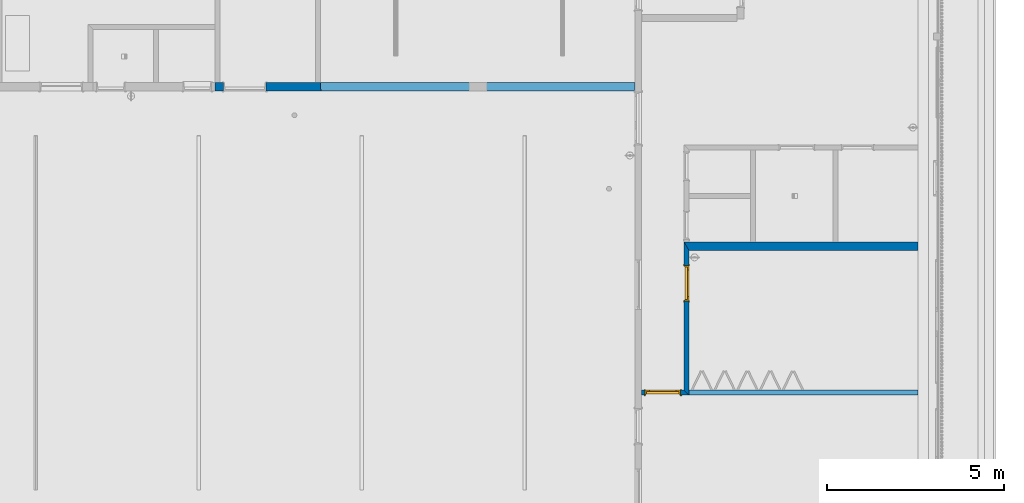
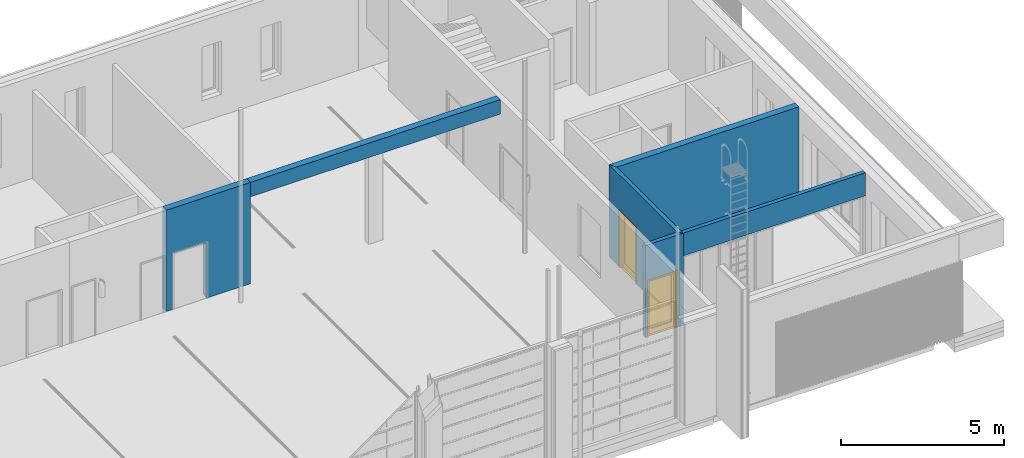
# One storey, part 11 of 112: 6 walls, 2 doors, 4 openings.
"""IFC2X3 building model written with IfcOpenShell, lengths in millimetres."""

from ifc_helpers import new_model, entity, si_unit, converted_unit, derived_unit, money_unit, direction, frame, origin_with_axes, origin_2d_with_axis, place, context, subcontext, project, spatial, polyline, rectangle, outline, extrude, open_shell, faceted_brep, surface_model, source, transform, mapped, material, layer, layer_set, layer_usage, type_object, element, fill, save


model = new_model("IFC2X3")

# Units and contexts
model_context = context("Model", 3, precision=0.01, world=origin_with_axes(), true_north=direction((0.0, 1.0)))
body_context = subcontext(model_context, "Body", "Model", "MODEL_VIEW")
ifc_project = project(units=[si_unit("LENGTHUNIT", "METRE", prefix="MILLI"), si_unit("AREAUNIT", "SQUARE_METRE"), si_unit("VOLUMEUNIT", "CUBIC_METRE"), converted_unit("PLANEANGLEUNIT", "DEGREE", entity("IfcPlaneAngleMeasure", 0.0174532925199), si_unit("PLANEANGLEUNIT", "RADIAN"), dimensions=[0, 0, 0, 0, 0, 0, 0]), si_unit("SOLIDANGLEUNIT", "STERADIAN"), money_unit("EUR"), converted_unit("TIMEUNIT", "Year", entity("IfcTimeMeasure", 31556926.0), si_unit("TIMEUNIT", "SECOND"), dimensions=[0, 0, 1, 0, 0, 0, 0]), si_unit("MASSUNIT", "GRAM", prefix="KILO"), si_unit("THERMODYNAMICTEMPERATUREUNIT", "DEGREE_CELSIUS"), si_unit("LUMINOUSINTENSITYUNIT", "LUMEN"), si_unit("ENERGYUNIT", "JOULE", prefix="MEGA"), derived_unit("THERMALCONDUCTANCEUNIT", [(si_unit("POWERUNIT", "WATT"), 1), (si_unit("LENGTHUNIT", "METRE"), -1), (si_unit("THERMODYNAMICTEMPERATUREUNIT", "KELVIN"), -1)]), derived_unit("SPECIFICHEATCAPACITYUNIT", [(si_unit("ENERGYUNIT", "JOULE"), 1), (si_unit("MASSUNIT", "GRAM", prefix="KILO"), -1), (si_unit("THERMODYNAMICTEMPERATUREUNIT", "KELVIN"), -1)]), derived_unit("MASSDENSITYUNIT", [(si_unit("MASSUNIT", "GRAM", prefix="KILO"), 1), (si_unit("VOLUMEUNIT", "CUBIC_METRE"), -1)])], contexts=[model_context])

# Site, building, storey
site_placement = place(None, origin_with_axes())
site = spatial("IfcSite", under=ifc_project, at=site_placement, Name="Politse- ja Piirivalveameti ning Päästeameti ühishoone", CompositionType="ELEMENT")
building_placement = place(site_placement, origin_with_axes())
building = spatial("IfcBuilding", under=site, at=building_placement, Name="Politse- ja Piirivalveameti ning Päästeameti ühishoone", CompositionType="ELEMENT")
storey_placement = place(building_placement, origin_with_axes())
storey = spatial("IfcBuildingStorey", under=building, at=storey_placement, Name="Esimene korrus", CompositionType="ELEMENT", Elevation=0.0)

# Walls
ifc_material = material(Name="KON-05_Betoon Plokk - Konstuktsioon")
ifc_layer_1 = layer(ifc_material, 240.0, ventilated="UNKNOWN")
ifc_layer_set_1 = layer_set([ifc_layer_1], Name="SS-04_Sisesein 240")
ifc_layer_usage_1 = layer_usage(ifc_layer_set_1, "AXIS2", "NEGATIVE", 240.0)
wall_type_1 = type_object("IfcWallType", Name="SS-04_Sisesein 240 240", PredefinedType="NOTDEFINED")
wall_1_placement = place(storey_placement, frame((67960.5638285, 8500.01298611, 0.0), z_axis=(0.0, 0.0, 1.0), x_axis=(-1.0, 0.0, 0.0)))
element("IfcWallStandardCase", 1, at=wall_1_placement, inside=storey, type_object=wall_type_1, material=ifc_layer_usage_1, Name="SS-04", context=body_context, shape_type="SweptSolid", body=[
    extrude(outline(polyline([(0.0, 0.0), (6600.01191667, 0.0), (6460.01191667, 240.0), (0.0, 240.0), (0.0, 0.0)])), origin_with_axes(), (0.0, 0.0, 1.0), 3460.0),
])
ifc_layer_usage_2 = layer_usage(ifc_layer_set_1, "AXIS2", "NEGATIVE", 0.0)
wall_2_placement = place(storey_placement, frame((51100.5378563, 13000.0198611, 3257.96481008), z_axis=(0.0, 0.0, 1.0), x_axis=(1.0, 0.0, 0.0)))
element("IfcWallStandardCase", 2, at=wall_2_placement, inside=storey, type_object=wall_type_1, material=ifc_layer_usage_2, Name="SS-04", context=body_context, shape_type="SweptSolid", body=[
    extrude(outline(polyline([(0.0, -240.0), (8870.01405556, -240.0), (8870.01405556, 0.0), (0.0, 0.0), (0.0, -240.0)])), origin_with_axes(), (0.0, 0.0, 1.0), 542.035189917),
])

# Wall, opening
ifc_layer_usage_3 = layer_usage(ifc_layer_set_1, "AXIS2", "NEGATIVE", 0.0)
wall_3_placement = place(storey_placement, frame((48120.5326618, 13000.0198611, 0.0), z_axis=(0.0, 0.0, 1.0), x_axis=(1.0, 0.0, 0.0)))
wall_3 = element("IfcWallStandardCase", 3, at=wall_3_placement, inside=storey, type_object=wall_type_1, material=ifc_layer_usage_3, Name="SS-04", context=body_context, shape_type="SweptSolid", body=[
    extrude(outline(polyline([(0.0, -240.0), (2985.00519444, -240.0), (2980.00519444, 0.0), (0.0, 0.0), (0.0, -240.0)])), origin_with_axes(), (0.0, 0.0, 1.0), 3800.0),
])
opening_1_placement = place(wall_3_placement, frame((840.0, 0.0, 0.0), z_axis=(0.0, 0.0, 1.0), x_axis=(1.0, 0.0, 0.0)))
element("IfcOpeningElement", 4, at=opening_1_placement, cuts=wall_3, Name="TU-01-2", context=body_context, shape_type="SweptSolid", body=[
    extrude(rectangle(XDim=1200.0, YDim=2100.0, at=origin_2d_with_axis()), frame((0.0, -120.0, 1050.0), z_axis=(0.0, 1.0, 0.0), x_axis=(1.0, 0.0, 0.0)), (0.0, 0.0, 1.0), 360.0),
    extrude(rectangle(XDim=1200.0, YDim=2100.0, at=origin_2d_with_axis()), frame((0.0, -120.0, 1050.0), z_axis=(0.0, -1.0, 0.0), x_axis=(1.0, 0.0, 0.0)), (0.0, 0.0, 1.0), 360.0),
    extrude(rectangle(XDim=1274.0, YDim=2137.0, at=origin_2d_with_axis()), frame((0.0, -240.0, 1068.5), z_axis=(0.0, -1.0, 0.0), x_axis=(1.0, 0.0, 0.0)), (0.0, 0.0, 1.0), 360.0),
    extrude(rectangle(XDim=1274.0, YDim=2137.0, at=origin_2d_with_axis()), frame((0.0, 0.0, 1068.5), z_axis=(0.0, 1.0, 0.0), x_axis=(1.0, 0.0, 0.0)), (0.0, 0.0, 1.0), 360.0),
])

# Wall, opening, door
ifc_layer_2 = layer(ifc_material, 140.0, ventilated="UNKNOWN")
ifc_layer_set_2 = layer_set([ifc_layer_2], Name="SS-02_Sisesein 140")
ifc_layer_usage_4 = layer_usage(ifc_layer_set_2, "AXIS2", "NEGATIVE", 140.0)
wall_type_2 = type_object("IfcWallType", Name="SS-02_Sisesein 140 140", PredefinedType="NOTDEFINED")
wall_4_placement = place(storey_placement, frame((61500.5519118, 4250.00649306, 0.0), z_axis=(0.0, 0.0, 1.0), x_axis=(0.0, 1.0, 0.0)))
wall_4 = element("IfcWallStandardCase", 5, at=wall_4_placement, inside=storey, type_object=wall_type_2, material=ifc_layer_usage_4, Name="SS-02", context=body_context, shape_type="SweptSolid", body=[
    extrude(outline(polyline([(-70.0, 0.0), (4010.00649306, 0.0), (4250.00649306, 140.0), (70.0, 140.0), (-70.0, 0.0)])), origin_with_axes(), (0.0, 0.0, 1.0), 3460.0),
])
opening_2_placement = place(wall_4_placement, frame((3087.44735064, 0.0, 0.0), z_axis=(0.0, 0.0, 1.0), x_axis=(1.0, 0.0, 0.0)))
opening_2 = element("IfcOpeningElement", 6, at=opening_2_placement, cuts=wall_4, Name="TU-01-7", context=body_context, shape_type="SweptSolid", body=[
    extrude(rectangle(XDim=1000.0, YDim=2100.0, at=origin_2d_with_axis()), frame((0.0, 140.0, 1050.0), z_axis=(0.0, 1.0, 0.0), x_axis=(1.0, 0.0, 0.0)), (0.0, 0.0, -1.0), 420.0),
    extrude(rectangle(XDim=1074.0, YDim=2137.0, at=origin_2d_with_axis()), frame((0.0, 140.0, 1068.5), z_axis=(0.0, 1.0, 0.0), x_axis=(1.0, 0.0, 0.0)), (0.0, 0.0, 1.0), 140.0),
    extrude(rectangle(XDim=1074.0, YDim=2137.0, at=origin_2d_with_axis()), frame((0.0, 0.0, 1068.5), z_axis=(0.0, -1.0, 0.0), x_axis=(1.0, 0.0, 0.0)), (0.0, 0.0, 1.0), 140.0),
])
door_style_1 = type_object("IfcDoorStyle", Name="Door 23", ConstructionType="NOTDEFINED", OperationType="SINGLE_SWING_LEFT", ParameterTakesPrecedence=False, Sizeable=False)
shared_shape = source(origin_with_axes(), body_context, "Body", "SurfaceModel", [
    faceted_brep([(-472.0, -40.0, 0.0), (-460.0, -40.0, 0.0), (-460.0, -40.0, 12.0), (-472.0, -40.0, 12.0), (472.0, -40.0, 0.0), (460.0, -40.0, 0.0), (460.0, -115.0, 0.0), (-460.0, -115.0, 0.0), (-460.0, -115.0, 12.0), (460.0, -115.0, 12.0), (460.0, -40.0, 12.0), (472.0, -40.0, 12.0)], [[[0, 1, 2, 3]], [[0, 4, 5, 6, 7, 1]], [[1, 7, 8, 2]], [[3, 2, 8, 9, 10, 11]], [[4, 0, 3, 11]], [[5, 4, 11, 10]], [[6, 5, 10, 9]], [[7, 6, 9, 8]]]),
    faceted_brep([(500.0, -115.0, 0.0), (500.0, -140.0, 0.0), (475.0, -140.0, 0.0), (475.0, -115.0, 0.0), (500.0, -115.0, 2100.0), (500.0, -140.0, 2100.0), (475.0, -140.0, 2075.0), (475.0, -115.0, 2075.0)], [[[0, 1, 2, 3]], [[4, 5, 1, 0]], [[1, 5, 6, 2]], [[3, 2, 6, 7]], [[0, 3, 7, 4]], [[7, 6, 5, 4]]]),
    faceted_brep([(-500.0, -115.0, 2100.0), (-500.0, -140.0, 2100.0), (-475.0, -140.0, 2075.0), (-475.0, -115.0, 2075.0), (-500.0, -115.0, 0.0), (-500.0, -140.0, 0.0), (-475.0, -140.0, 0.0), (-475.0, -115.0, 0.0)], [[[0, 1, 2, 3]], [[4, 5, 1, 0]], [[1, 5, 6, 2]], [[3, 2, 6, 7]], [[0, 3, 7, 4]], [[7, 6, 5, 4]]]),
    faceted_brep([(475.0, -115.0, 2075.0), (475.0, -140.0, 2075.0), (-475.0, -140.0, 2075.0), (-475.0, -115.0, 2075.0), (500.0, -115.0, 2100.0), (500.0, -140.0, 2100.0), (-500.0, -140.0, 2100.0), (-500.0, -115.0, 2100.0)], [[[0, 1, 2, 3]], [[4, 5, 1, 0]], [[1, 5, 6, 2]], [[3, 2, 6, 7]], [[0, 3, 7, 4]], [[7, 6, 5, 4]]]),
    faceted_brep([(537.0, -159.0, 0.0), (487.0, -159.0, 0.0), (487.0, -140.0, 0.0), (537.0, -140.0, 0.0), (537.0, -159.0, 2137.0), (487.0, -159.0, 2087.0), (487.0, -140.0, 2087.0), (537.0, -140.0, 2137.0)], [[[0, 1, 2, 3]], [[0, 4, 5, 1]], [[1, 5, 6, 2]], [[3, 2, 6, 7]], [[4, 0, 3, 7]], [[5, 4, 7, 6]]]),
    faceted_brep([(-537.0, -159.0, 2137.0), (-487.0, -159.0, 2087.0), (-487.0, -140.0, 2087.0), (-537.0, -140.0, 2137.0), (-537.0, -159.0, 0.0), (-487.0, -159.0, 0.0), (-487.0, -140.0, 0.0), (-537.0, -140.0, 0.0)], [[[0, 1, 2, 3]], [[0, 4, 5, 1]], [[1, 5, 6, 2]], [[3, 2, 6, 7]], [[4, 0, 3, 7]], [[5, 4, 7, 6]]]),
    faceted_brep([(537.0, -159.0, 2137.0), (487.0, -159.0, 2087.0), (487.0, -140.0, 2087.0), (537.0, -140.0, 2137.0), (-537.0, -159.0, 2137.0), (-487.0, -159.0, 2087.0), (-487.0, -140.0, 2087.0), (-537.0, -140.0, 2137.0)], [[[0, 1, 2, 3]], [[0, 4, 5, 1]], [[1, 5, 6, 2]], [[3, 2, 6, 7]], [[4, 0, 3, 7]], [[5, 4, 7, 6]]]),
    faceted_brep([(537.0, 19.0, 0.0), (537.0, 0.0, 0.0), (487.0, 0.0, 0.0), (487.0, 19.0, 0.0), (537.0, 19.0, 2137.0), (537.0, 0.0, 2137.0), (487.0, 0.0, 2087.0), (487.0, 19.0, 2087.0)], [[[0, 1, 2, 3]], [[4, 5, 1, 0]], [[1, 5, 6, 2]], [[3, 2, 6, 7]], [[0, 3, 7, 4]], [[7, 6, 5, 4]]]),
    faceted_brep([(-537.0, 19.0, 2137.0), (-537.0, 0.0, 2137.0), (-487.0, 0.0, 2087.0), (-487.0, 19.0, 2087.0), (-537.0, 19.0, 0.0), (-537.0, 0.0, 0.0), (-487.0, 0.0, 0.0), (-487.0, 19.0, 0.0)], [[[0, 1, 2, 3]], [[4, 5, 1, 0]], [[1, 5, 6, 2]], [[3, 2, 6, 7]], [[0, 3, 7, 4]], [[7, 6, 5, 4]]]),
    faceted_brep([(537.0, 19.0, 2137.0), (537.0, 0.0, 2137.0), (487.0, 0.0, 2087.0), (487.0, 19.0, 2087.0), (-537.0, 19.0, 2137.0), (-537.0, 0.0, 2137.0), (-487.0, 0.0, 2087.0), (-487.0, 19.0, 2087.0)], [[[0, 1, 2, 3]], [[4, 5, 1, 0]], [[1, 5, 6, 2]], [[3, 2, 6, 7]], [[0, 3, 7, 4]], [[7, 6, 5, 4]]]),
    faceted_brep([(460.0, -40.0, 0.0), (460.0, -115.0, 0.0), (460.0, -115.0, 2060.0), (460.0, -40.0, 2060.0), (472.0, -40.0, 0.0), (472.0, 0.0, 0.0), (500.0, 0.0, 0.0), (500.0, -115.0, 0.0), (500.0, -115.0, 2060.0), (472.0, -40.0, 2060.0), (500.0, 0.0, 2060.0), (472.0, 0.0, 2060.0)], [[[0, 1, 2, 3]], [[4, 5, 6, 7, 1, 0]], [[1, 7, 8, 2]], [[9, 3, 2, 8, 10, 11]], [[9, 4, 0, 3]], [[11, 5, 4, 9]], [[11, 10, 6, 5]], [[6, 10, 8, 7]]]),
    faceted_brep([(-472.0, -40.0, 2060.0), (-472.0, 0.0, 2060.0), (-500.0, 0.0, 2060.0), (-500.0, -115.0, 2060.0), (-460.0, -115.0, 2060.0), (-460.0, -40.0, 2060.0), (-472.0, -40.0, 0.0), (-472.0, 0.0, 0.0), (-500.0, 0.0, 0.0), (-500.0, -115.0, 0.0), (-460.0, -115.0, 0.0), (-460.0, -40.0, 0.0)], [[[0, 1, 2, 3, 4, 5]], [[0, 6, 7, 1]], [[7, 8, 2, 1]], [[2, 8, 9, 3]], [[3, 9, 10, 4]], [[5, 4, 10, 11]], [[5, 11, 6, 0]], [[6, 11, 10, 9, 8, 7]]]),
    faceted_brep([(472.0, 0.0, 2072.0), (-472.0, 0.0, 2072.0), (-472.0, 0.0, 2060.0), (-500.0, 0.0, 2060.0), (-500.0, 0.0, 2100.0), (500.0, 0.0, 2100.0), (500.0, 0.0, 2060.0), (472.0, 0.0, 2060.0), (472.0, -40.0, 2072.0), (-472.0, -40.0, 2072.0), (-472.0, -40.0, 2060.0), (-460.0, -40.0, 2060.0), (-460.0, -115.0, 2060.0), (-500.0, -115.0, 2060.0), (-500.0, -115.0, 2100.0), (500.0, -115.0, 2100.0), (500.0, -115.0, 2060.0), (472.0, -40.0, 2060.0), (460.0, -115.0, 2060.0), (460.0, -40.0, 2060.0)], [[[0, 1, 2, 3, 4, 5, 6, 7]], [[0, 8, 9, 1]], [[1, 9, 10, 2]], [[10, 11, 12, 13, 3, 2]], [[4, 3, 13, 14]], [[5, 4, 14, 15]], [[6, 5, 15, 16]], [[17, 7, 6, 16, 18, 19]], [[7, 17, 8, 0]], [[10, 9, 8, 17, 19, 11]], [[19, 18, 12, 11]], [[12, 18, 16, 15, 14, 13]]]),
    faceted_brep([(-472.0, 0.0, 200.0), (-372.0, 0.0, 200.0), (-372.0, -40.0, 200.0), (-472.0, -40.0, 200.0), (-472.0, 0.0, 1972.0), (-372.0, 0.0, 1972.0), (-372.0, -40.0, 1972.0), (-472.0, -40.0, 1972.0)], [[[0, 1, 2, 3]], [[0, 4, 5, 1]], [[1, 5, 6, 2]], [[3, 2, 6, 7]], [[4, 0, 3, 7]], [[5, 4, 7, 6]]]),
    faceted_brep([(472.0, 0.0, 200.0), (472.0, 0.0, 1972.0), (472.0, -40.0, 1972.0), (472.0, -40.0, 200.0), (372.0, 0.0, 200.0), (372.0, 0.0, 1972.0), (372.0, -40.0, 1972.0), (372.0, -40.0, 200.0)], [[[0, 1, 2, 3]], [[0, 4, 5, 1]], [[1, 5, 6, 2]], [[3, 2, 6, 7]], [[4, 0, 3, 7]], [[5, 4, 7, 6]]]),
    faceted_brep([(-472.0, 0.0, 0.0), (472.0, 0.0, 0.0), (472.0, -40.0, 0.0), (-472.0, -40.0, 0.0), (-472.0, 0.0, 200.0), (-372.0, 0.0, 200.0), (372.0, 0.0, 200.0), (472.0, 0.0, 200.0), (472.0, -40.0, 200.0), (372.0, -40.0, 200.0), (-372.0, -40.0, 200.0), (-472.0, -40.0, 200.0)], [[[0, 1, 2, 3]], [[0, 4, 5, 6, 7, 1]], [[1, 7, 8, 2]], [[3, 2, 8, 9, 10, 11]], [[4, 0, 3, 11]], [[5, 4, 11, 10]], [[6, 5, 10, 9]], [[7, 6, 9, 8]]]),
    faceted_brep([(-472.0, 0.0, 2072.0), (-472.0, 0.0, 1972.0), (-472.0, -40.0, 1972.0), (-472.0, -40.0, 2072.0), (472.0, 0.0, 2072.0), (472.0, 0.0, 1972.0), (372.0, 0.0, 1972.0), (-372.0, 0.0, 1972.0), (-372.0, -40.0, 1972.0), (372.0, -40.0, 1972.0), (472.0, -40.0, 1972.0), (472.0, -40.0, 2072.0)], [[[0, 1, 2, 3]], [[0, 4, 5, 6, 7, 1]], [[1, 7, 8, 2]], [[3, 2, 8, 9, 10, 11]], [[4, 0, 3, 11]], [[5, 4, 11, 10]], [[6, 5, 10, 9]], [[7, 6, 9, 8]]]),
    surface_model("IfcShellBasedSurfaceModel", [(-372.0, -14.0, 200.0), (-372.0, -14.0, 1972.0), (372.0, -14.0, 1972.0), (372.0, -14.0, 200.0)], [open_shell([[[0, 1, 2, 3]]])]),
    surface_model("IfcShellBasedSurfaceModel", [(-372.0, -26.0, 200.0), (372.0, -26.0, 200.0), (372.0, -26.0, 1972.0), (-372.0, -26.0, 1972.0)], [open_shell([[[0, 1, 2, 3]]])]),
])
door_1_placement = place(opening_2_placement, frame((500.0, 0.0, 0.0), z_axis=(0.0, 0.0, 1.0), x_axis=(-1.0, 0.0, 0.0)))
door_1 = element("IfcDoor", 7, at=door_1_placement, inside=storey, type_object=door_style_1, Name="TU-01-7", ObjectType="DOOR", OverallHeight=2100.0, OverallWidth=1000.0, context=body_context, shape_type="MappedRepresentation", body=[
    mapped(shared_shape, transform((500.0, 0.0, 0.0))),
])
fill(opening_2, door_1)

ifc_layer_usage_5 = layer_usage(ifc_layer_set_2, "AXIS2", "NEGATIVE", 70.0)
wall_5_placement = place(storey_placement, frame((60160.5519118, 4250.00649306, 0.0), z_axis=(0.0, 0.0, 1.0), x_axis=(1.0, 0.0, 0.0)))
wall_5 = element("IfcWallStandardCase", 8, at=wall_5_placement, inside=storey, type_object=wall_type_2, material=ifc_layer_usage_5, Name="SS-02", context=body_context, shape_type="SweptSolid", body=[
    extrude(outline(polyline([(0.0, -70.0), (1340.0, -70.0), (1200.0, 70.0), (0.0, 70.0), (0.0, -70.0)])), origin_with_axes(), (0.0, 0.0, 1.0), 3460.0),
])
opening_3_placement = place(wall_5_placement, frame((600.0, 0.0, 0.0), z_axis=(0.0, 0.0, 1.0), x_axis=(1.0, 0.0, 0.0)))
opening_3 = element("IfcOpeningElement", 9, at=opening_3_placement, cuts=wall_5, Name="TU-01-7", context=body_context, shape_type="SweptSolid", body=[
    extrude(rectangle(XDim=1000.0, YDim=2100.0, at=origin_2d_with_axis()), frame((0.0, -140.0, 1050.0), z_axis=(0.0, -1.0, 0.0), x_axis=(-1.0, 0.0, 0.0)), (0.0, 0.0, -1.0), 420.0),
    extrude(rectangle(XDim=1074.0, YDim=2137.0, at=origin_2d_with_axis()), frame((0.0, -70.0, 1068.5), z_axis=(0.0, -1.0, 0.0), x_axis=(-1.0, 0.0, 0.0)), (0.0, 0.0, 1.0), 140.0),
    extrude(rectangle(XDim=1074.0, YDim=2137.0, at=origin_2d_with_axis()), frame((0.0, 70.0, 1068.5), z_axis=(0.0, 1.0, 0.0), x_axis=(-1.0, 0.0, 0.0)), (0.0, 0.0, 1.0), 140.0),
])
door_style_2 = type_object("IfcDoorStyle", Name="Door 23", ConstructionType="NOTDEFINED", OperationType="SINGLE_SWING_LEFT", ParameterTakesPrecedence=False, Sizeable=False)
door_2_placement = place(opening_3_placement, frame((-500.0, 0.0, 0.0), z_axis=(0.0, 0.0, 1.0), x_axis=(1.0, 0.0, 0.0)))
door_2 = element("IfcDoor", 10, at=door_2_placement, inside=storey, type_object=door_style_2, Name="TU-01-7", ObjectType="DOOR", OverallHeight=2100.0, OverallWidth=1000.0, context=body_context, shape_type="MappedRepresentation", body=[
    mapped(shared_shape, transform((500.0, 70.0, 0.0))),
])
fill(opening_3, door_2)

# Wall, opening
ifc_layer_usage_6 = layer_usage(ifc_layer_set_2, "AXIS2", "NEGATIVE", 70.0)
wall_6_placement = place(storey_placement, frame((61500.5519118, 4250.00649306, 0.0), z_axis=(0.0, 0.0, 1.0), x_axis=(1.0, 0.0, 0.0)))
wall_6 = element("IfcWallStandardCase", 11, at=wall_6_placement, inside=storey, type_object=wall_type_2, material=ifc_layer_usage_6, Name="SS-02", context=body_context, shape_type="SweptSolid", body=[
    extrude(outline(polyline([(0.0, -70.0), (6460.01191667, -70.0), (6460.01191667, 70.0), (0.0, 70.0), (0.0, -70.0)])), origin_with_axes(), (0.0, 0.0, 1.0), 3460.0),
])
opening_4_placement = place(wall_6_placement, frame((3230.00595833, 0.0, 0.0), z_axis=(0.0, 0.0, 1.0), x_axis=(1.0, 0.0, 0.0)))
element("IfcOpeningElement", 12, at=opening_4_placement, cuts=wall_6, Name="VOU-01", context=body_context, shape_type="SweptSolid", body=[
    extrude(rectangle(XDim=6460.01191667, YDim=2600.0, at=origin_2d_with_axis()), frame((0.0, 140.0, 1300.0), z_axis=(0.0, -1.0, 0.0), x_axis=(1.0, 0.0, 0.0)), (0.0, 0.0, 1.0), 420.0),
])

save(model, "model.ifc")
